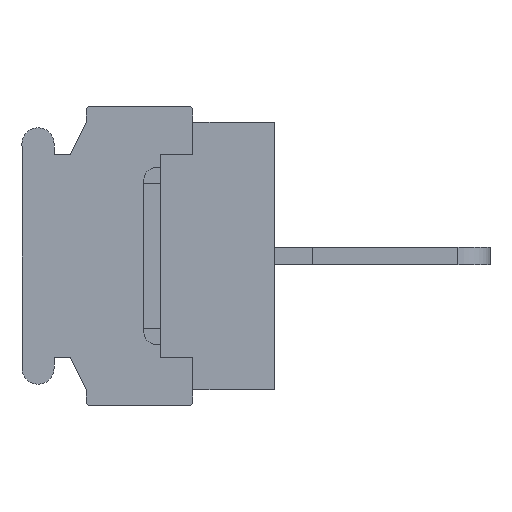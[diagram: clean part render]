
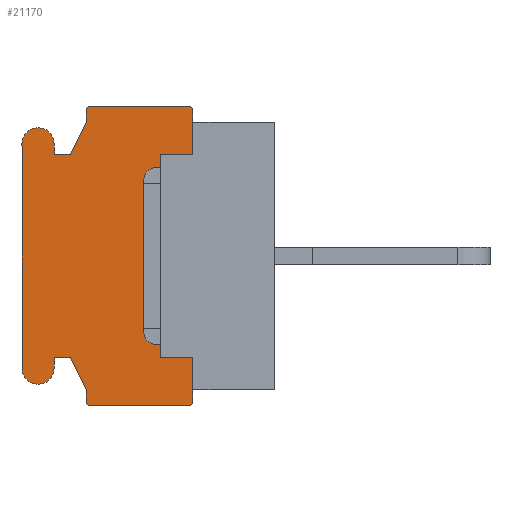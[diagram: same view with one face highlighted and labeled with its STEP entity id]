
A CAD part, left-side view. The second image highlights one B-rep face of the part: STEP entity #21170.
In plain terms, the highlighted planar face has unit normal (-1, 0, 0).
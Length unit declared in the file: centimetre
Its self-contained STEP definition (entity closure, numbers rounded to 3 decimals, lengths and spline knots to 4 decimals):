
#1252=PLANE('',#34475);
#2001=VECTOR('',#22510,1.);
#3232=VECTOR('',#25163,1.);
#3233=VECTOR('',#25164,1.);
#3234=VECTOR('',#25167,1.);
#3235=VECTOR('',#25170,1.);
#3236=VECTOR('',#25171,1.);
#3237=VECTOR('',#25172,1.);
#3238=VECTOR('',#25173,1.);
#3239=VECTOR('',#25176,1.);
#3240=VECTOR('',#25179,1.);
#3241=VECTOR('',#25180,1.);
#3242=VECTOR('',#25181,1.);
#3243=VECTOR('',#25182,1.);
#3244=VECTOR('',#25185,1.);
#3245=VECTOR('',#25188,1.);
#3246=VECTOR('',#25189,1.);
#3247=VECTOR('',#25190,1.);
#3248=VECTOR('',#25191,1.);
#4277=LINE('',#27927,#2001);
#5508=LINE('',#31627,#3232);
#5509=LINE('',#31629,#3233);
#5510=LINE('',#31633,#3234);
#5511=LINE('',#31637,#3235);
#5512=LINE('',#31639,#3236);
#5513=LINE('',#31641,#3237);
#5514=LINE('',#31643,#3238);
#5515=LINE('',#31647,#3239);
#5516=LINE('',#31651,#3240);
#5517=LINE('',#31653,#3241);
#5518=LINE('',#31655,#3242);
#5519=LINE('',#31657,#3243);
#5520=LINE('',#31661,#3244);
#5521=LINE('',#31665,#3245);
#5522=LINE('',#31666,#3246);
#5523=LINE('',#31668,#3247);
#5524=LINE('',#31669,#3248);
#6492=VERTEX_POINT('',#27928);
#6493=VERTEX_POINT('',#27929);
#6598=VERTEX_POINT('',#28223);
#6633=VERTEX_POINT('',#28298);
#7638=VERTEX_POINT('',#31628);
#7639=VERTEX_POINT('',#31630);
#7640=VERTEX_POINT('',#31632);
#7641=VERTEX_POINT('',#31634);
#7642=VERTEX_POINT('',#31636);
#7643=VERTEX_POINT('',#31638);
#7644=VERTEX_POINT('',#31640);
#7645=VERTEX_POINT('',#31642);
#7646=VERTEX_POINT('',#31644);
#7647=VERTEX_POINT('',#31646);
#7648=VERTEX_POINT('',#31648);
#7649=VERTEX_POINT('',#31650);
#7650=VERTEX_POINT('',#31652);
#7651=VERTEX_POINT('',#31654);
#7652=VERTEX_POINT('',#31656);
#7653=VERTEX_POINT('',#31658);
#7654=VERTEX_POINT('',#31660);
#7655=VERTEX_POINT('',#31662);
#7656=VERTEX_POINT('',#31664);
#7657=VERTEX_POINT('',#31667);
#8386=CIRCLE('',#34476,0.02);
#8387=CIRCLE('',#34477,0.02);
#8388=CIRCLE('',#34478,0.075);
#8389=CIRCLE('',#34479,0.075);
#8390=CIRCLE('',#34480,0.02);
#8391=CIRCLE('',#34481,0.02);
#9194=EDGE_CURVE('',#6492,#6493,#4277,.T.);
#10925=EDGE_CURVE('',#7638,#6598,#5508,.T.);
#10926=EDGE_CURVE('',#7639,#6598,#5509,.T.);
#10927=EDGE_CURVE('',#7640,#7639,#8386,.T.);
#10928=EDGE_CURVE('',#7641,#7640,#5510,.T.);
#10929=EDGE_CURVE('',#7642,#7641,#8387,.T.);
#10930=EDGE_CURVE('',#7643,#7642,#5511,.T.);
#10931=EDGE_CURVE('',#7644,#7643,#5512,.T.);
#10932=EDGE_CURVE('',#7645,#7644,#5513,.T.);
#10933=EDGE_CURVE('',#7646,#7645,#5514,.T.);
#10934=EDGE_CURVE('',#7647,#7646,#8388,.T.);
#10935=EDGE_CURVE('',#7648,#7647,#5515,.T.);
#10936=EDGE_CURVE('',#7649,#7648,#8389,.T.);
#10937=EDGE_CURVE('',#7650,#7649,#5516,.T.);
#10938=EDGE_CURVE('',#7651,#7650,#5517,.T.);
#10939=EDGE_CURVE('',#7652,#7651,#5518,.T.);
#10940=EDGE_CURVE('',#7653,#7652,#5519,.T.);
#10941=EDGE_CURVE('',#7654,#7653,#8390,.T.);
#10942=EDGE_CURVE('',#7655,#7654,#5520,.T.);
#10943=EDGE_CURVE('',#7656,#7655,#8391,.T.);
#10944=EDGE_CURVE('',#6633,#7656,#5521,.T.);
#10945=EDGE_CURVE('',#6633,#7657,#5522,.T.);
#10946=EDGE_CURVE('',#7657,#6492,#5523,.T.);
#10947=EDGE_CURVE('',#6493,#7638,#5524,.T.);
#16511=ORIENTED_EDGE('',*,*,#10925,.T.);
#16512=ORIENTED_EDGE('',*,*,#10926,.F.);
#16513=ORIENTED_EDGE('',*,*,#10927,.F.);
#16514=ORIENTED_EDGE('',*,*,#10928,.F.);
#16515=ORIENTED_EDGE('',*,*,#10929,.F.);
#16516=ORIENTED_EDGE('',*,*,#10930,.F.);
#16517=ORIENTED_EDGE('',*,*,#10931,.F.);
#16518=ORIENTED_EDGE('',*,*,#10932,.F.);
#16519=ORIENTED_EDGE('',*,*,#10933,.F.);
#16520=ORIENTED_EDGE('',*,*,#10934,.F.);
#16521=ORIENTED_EDGE('',*,*,#10935,.F.);
#16522=ORIENTED_EDGE('',*,*,#10936,.F.);
#16523=ORIENTED_EDGE('',*,*,#10937,.F.);
#16524=ORIENTED_EDGE('',*,*,#10938,.F.);
#16525=ORIENTED_EDGE('',*,*,#10939,.F.);
#16526=ORIENTED_EDGE('',*,*,#10940,.F.);
#16527=ORIENTED_EDGE('',*,*,#10941,.F.);
#16528=ORIENTED_EDGE('',*,*,#10942,.F.);
#16529=ORIENTED_EDGE('',*,*,#10943,.F.);
#16530=ORIENTED_EDGE('',*,*,#10944,.F.);
#16531=ORIENTED_EDGE('',*,*,#10945,.T.);
#16532=ORIENTED_EDGE('',*,*,#10946,.T.);
#16533=ORIENTED_EDGE('',*,*,#9194,.T.);
#16534=ORIENTED_EDGE('',*,*,#10947,.T.);
#18718=EDGE_LOOP('',(#16511,#16512,#16513,#16514,#16515,#16516,#16517,#16518,
#16519,#16520,#16521,#16522,#16523,#16524,#16525,#16526,#16527,#16528,#16529,
#16530,#16531,#16532,#16533,#16534));
#20000=FACE_BOUND('',#18718,.T.);
#21170=ADVANCED_FACE('',(#20000),#1252,.F.);
#22510=DIRECTION('',(0.,0.,1.));
#25162=DIRECTION('',(1.,0.,0.));
#25163=DIRECTION('',(0.,0.,1.));
#25164=DIRECTION('',(0.,0.,-1.));
#25165=DIRECTION('',(1.,0.,0.));
#25166=DIRECTION('',(0.,0.,-0.02));
#25167=DIRECTION('',(0.,-1.,0.));
#25168=DIRECTION('',(1.,0.,0.));
#25169=DIRECTION('',(0.,0.,-0.02));
#25170=DIRECTION('',(0.,0.,1.));
#25171=DIRECTION('',(0.,-0.447,0.894));
#25172=DIRECTION('',(0.,-1.,0.));
#25173=DIRECTION('',(0.,0.,-1.));
#25174=DIRECTION('',(1.,0.,0.));
#25175=DIRECTION('',(0.,0.,-0.075));
#25176=DIRECTION('',(0.,0.,1.));
#25177=DIRECTION('',(1.,0.,0.));
#25178=DIRECTION('',(0.,0.,-0.075));
#25179=DIRECTION('',(0.,0.,-1.));
#25180=DIRECTION('',(0.,1.,0.));
#25181=DIRECTION('',(0.,0.447,0.894));
#25182=DIRECTION('',(0.,0.,1.));
#25183=DIRECTION('',(1.,0.,0.));
#25184=DIRECTION('',(0.,0.,-0.02));
#25185=DIRECTION('',(0.,1.,0.));
#25186=DIRECTION('',(1.,0.,0.));
#25187=DIRECTION('',(0.,0.,-0.02));
#25188=DIRECTION('',(0.,0.,-1.));
#25189=DIRECTION('',(0.,0.,1.));
#25190=DIRECTION('',(0.,1.,0.));
#25191=DIRECTION('',(0.,-1.,0.));
#27927=CARTESIAN_POINT('',(-0.762,0.53,0.));
#27928=CARTESIAN_POINT('',(-0.762,0.53,-0.475));
#27929=CARTESIAN_POINT('',(-0.762,0.53,0.475));
#28223=CARTESIAN_POINT('',(-0.762,0.38,0.625));
#28298=CARTESIAN_POINT('',(-0.762,0.38,-0.625));
#31626=CARTESIAN_POINT('',(-0.762,0.6059,0.));
#31627=CARTESIAN_POINT('',(-0.762,0.38,0.275));
#31628=CARTESIAN_POINT('',(-0.762,0.38,0.475));
#31629=CARTESIAN_POINT('',(-0.762,0.38,0.68));
#31630=CARTESIAN_POINT('',(-0.762,0.38,0.68));
#31631=CARTESIAN_POINT('',(-0.762,0.4,0.68));
#31632=CARTESIAN_POINT('',(-0.762,0.4,0.7));
#31633=CARTESIAN_POINT('',(-0.762,0.86,0.7));
#31634=CARTESIAN_POINT('',(-0.762,0.86,0.7));
#31635=CARTESIAN_POINT('',(-0.762,0.86,0.68));
#31636=CARTESIAN_POINT('',(-0.762,0.88,0.68));
#31637=CARTESIAN_POINT('',(-0.762,0.88,0.625));
#31638=CARTESIAN_POINT('',(-0.762,0.88,0.625));
#31639=CARTESIAN_POINT('',(-0.762,0.955,0.475));
#31640=CARTESIAN_POINT('',(-0.762,0.955,0.475));
#31641=CARTESIAN_POINT('',(-0.762,1.03,0.475));
#31642=CARTESIAN_POINT('',(-0.762,1.03,0.475));
#31643=CARTESIAN_POINT('',(-0.762,1.03,0.525));
#31644=CARTESIAN_POINT('',(-0.762,1.03,0.525));
#31645=CARTESIAN_POINT('',(-0.762,1.105,0.525));
#31646=CARTESIAN_POINT('',(-0.762,1.18,0.525));
#31647=CARTESIAN_POINT('',(-0.762,1.18,-0.525));
#31648=CARTESIAN_POINT('',(-0.762,1.18,-0.525));
#31649=CARTESIAN_POINT('',(-0.762,1.105,-0.525));
#31650=CARTESIAN_POINT('',(-0.762,1.03,-0.525));
#31651=CARTESIAN_POINT('',(-0.762,1.03,-0.475));
#31652=CARTESIAN_POINT('',(-0.762,1.03,-0.475));
#31653=CARTESIAN_POINT('',(-0.762,0.955,-0.475));
#31654=CARTESIAN_POINT('',(-0.762,0.955,-0.475));
#31655=CARTESIAN_POINT('',(-0.762,0.88,-0.625));
#31656=CARTESIAN_POINT('',(-0.762,0.88,-0.625));
#31657=CARTESIAN_POINT('',(-0.762,0.88,-0.68));
#31658=CARTESIAN_POINT('',(-0.762,0.88,-0.68));
#31659=CARTESIAN_POINT('',(-0.762,0.86,-0.68));
#31660=CARTESIAN_POINT('',(-0.762,0.86,-0.7));
#31661=CARTESIAN_POINT('',(-0.762,0.4,-0.7));
#31662=CARTESIAN_POINT('',(-0.762,0.4,-0.7));
#31663=CARTESIAN_POINT('',(-0.762,0.4,-0.68));
#31664=CARTESIAN_POINT('',(-0.762,0.38,-0.68));
#31665=CARTESIAN_POINT('',(-0.762,0.38,-0.625));
#31666=CARTESIAN_POINT('',(-0.762,0.38,-0.275));
#31667=CARTESIAN_POINT('',(-0.762,0.38,-0.475));
#31668=CARTESIAN_POINT('',(-0.762,0.5304,-0.475));
#31669=CARTESIAN_POINT('',(-0.762,0.5304,0.475));
#34475=AXIS2_PLACEMENT_3D('',#31626,#25162,$);
#34476=AXIS2_PLACEMENT_3D('',#31631,#25165,#25166);
#34477=AXIS2_PLACEMENT_3D('',#31635,#25168,#25169);
#34478=AXIS2_PLACEMENT_3D('',#31645,#25174,#25175);
#34479=AXIS2_PLACEMENT_3D('',#31649,#25177,#25178);
#34480=AXIS2_PLACEMENT_3D('',#31659,#25183,#25184);
#34481=AXIS2_PLACEMENT_3D('',#31663,#25186,#25187);
